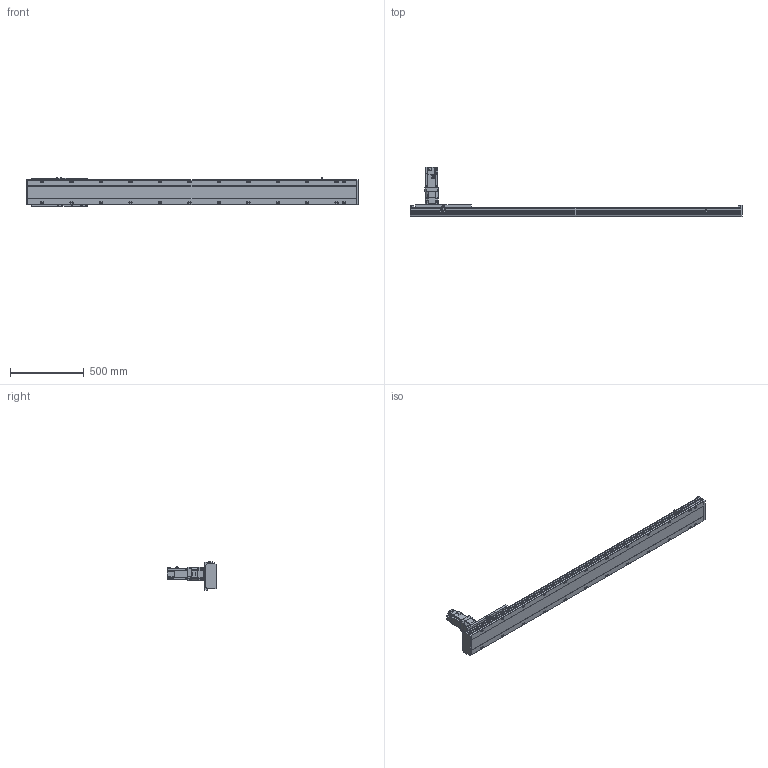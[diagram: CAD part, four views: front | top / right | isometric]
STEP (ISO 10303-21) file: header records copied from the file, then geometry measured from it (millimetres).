
FILE_DESCRIPTION(/* description */ ('STEP AP203'),/* implementation_level */ '2;1');
FILE_NAME(/* name */ 'SHS17A-L13-S1800-BC-T75-C1-N(0)',/* time_stamp */ '2023-03-27T08:57:46+02:00',/* author */ ('License CC BY-ND 4.0'),/* organization */ ('CADENAS'),/* preprocessor_version */ 'ST-DEVELOPER v19.3',/* originating_system */ 'PARTsolutions',/* authorisation */ ' ');
FILE_SCHEMA (('CONFIG_CONTROL_DESIGN'));
Length unit declared in the file: millimetre
Products named in the file (7): SHS17A-L13-S1800-BC-T75-C1-N(0); PSC140-sensor; SHS17A-S1800(0)_body2; T75-p1; SHS17A-S1800_body3; SHS17A-S1800-C1(0)_slider; SHS17A-S1800-C1(0)_body
Assembly tree (13 placements, depth 2):
  SHS17A-L13-S1800-BC-T75-C1-N(0)
    PSC140-sensor  x3
    SHS17A-S1800(0)_body2  x6
    T75-p1
    SHS17A-S1800_body3
    SHS17A-S1800-C1(0)_slider
    SHS17A-S1800-C1(0)_body
Bounding box: 2254 x 333.8 x 193.4 mm (x, y, z)
Volume: 16838391.9 mm3; surface area: 1982375.1 mm2
Topology: 13 solids, 13 shells, 2040 faces, 5171 edges, 3370 vertices
Faces by surface type: plane 1325, cylinder 634, cone 78, torus 3
Full cylindrical faces by diameter (mm): 2.8 x3, 4.134 x24, 4.5 x2, 4.6 x3, 4.917 x15, 5.5 x48, 6 x7, 6.5 x24, 6.647 x32, 6.8 x9, 8 x3, 8.5 x24, 10 x28, 11 x4, 14 x24, 22 x1, 24 x1, 24.2 x1, 28 x1, 28.2 x1, 28.8 x1, 29.8 x1, 48.542 x1, 68 x1, 70 x1, 78 x1, 80 x2
Entity records: 37836 total; most frequent: CARTESIAN_POINT 7248, DIRECTION 6223, ORIENTED_EDGE 5964, EDGE_CURVE 2982, AXIS2_PLACEMENT_3D 2178, VERTEX_POINT 2095, LINE 1867, VECTOR 1867
